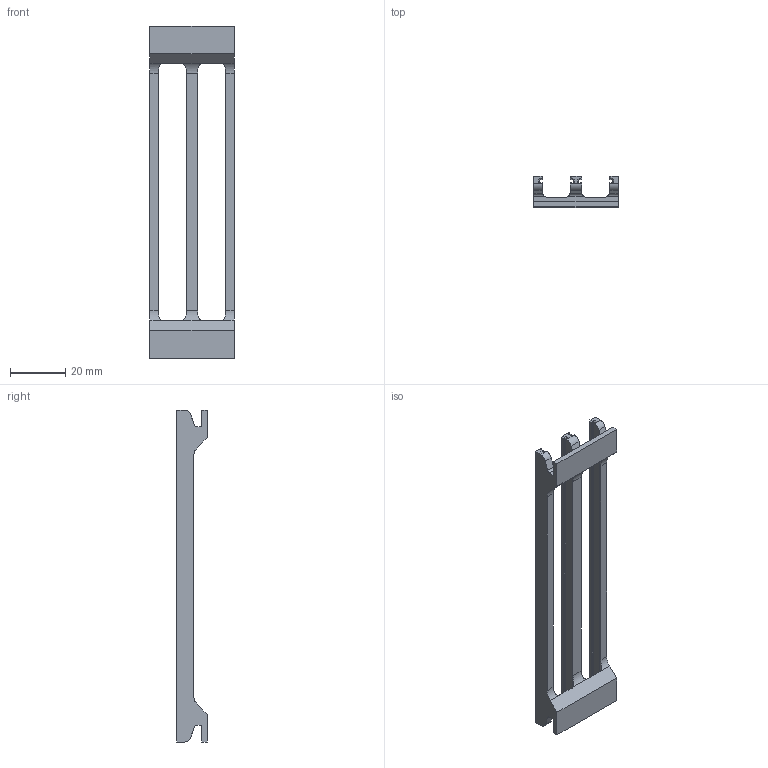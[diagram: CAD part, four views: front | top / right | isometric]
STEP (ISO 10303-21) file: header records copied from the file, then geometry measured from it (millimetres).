
FILE_DESCRIPTION(/* description */ (''),/* implementation_level */ '2;1');
FILE_NAME(/* name */ 'C:/Users/Ben/Desktop/pme/12mm12mmClipStrip.step',/* time_stamp */ '2022-04-22T16:53:46-04:00',/* author */ (''),/* organization */ (''),/* preprocessor_version */ 'ST-DEVELOPER v18.1',/* originating_system */ 'Autodesk Translation Framework v10.10.0.1391',/* authorisation */ '');
FILE_SCHEMA (('AUTOMOTIVE_DESIGN { 1 0 10303 214 3 1 1 }'));
Length unit declared in the file: millimetre
Products named in the file (1): ClipPCBTrays
Bounding box: 30.5 x 11 x 120 mm (x, y, z)
Volume: 8867.4 mm3; surface area: 9547.5 mm2
Topology: 1 solids, 1 shells, 120 faces, 334 edges, 212 vertices
Faces by surface type: plane 98, cylinder 22
Entity records: 3951 total; most frequent: CARTESIAN_POINT 843, ORIENTED_EDGE 668, DIRECTION 604, EDGE_CURVE 334, LINE 274, VECTOR 274, VERTEX_POINT 212, AXIS2_PLACEMENT_3D 165
